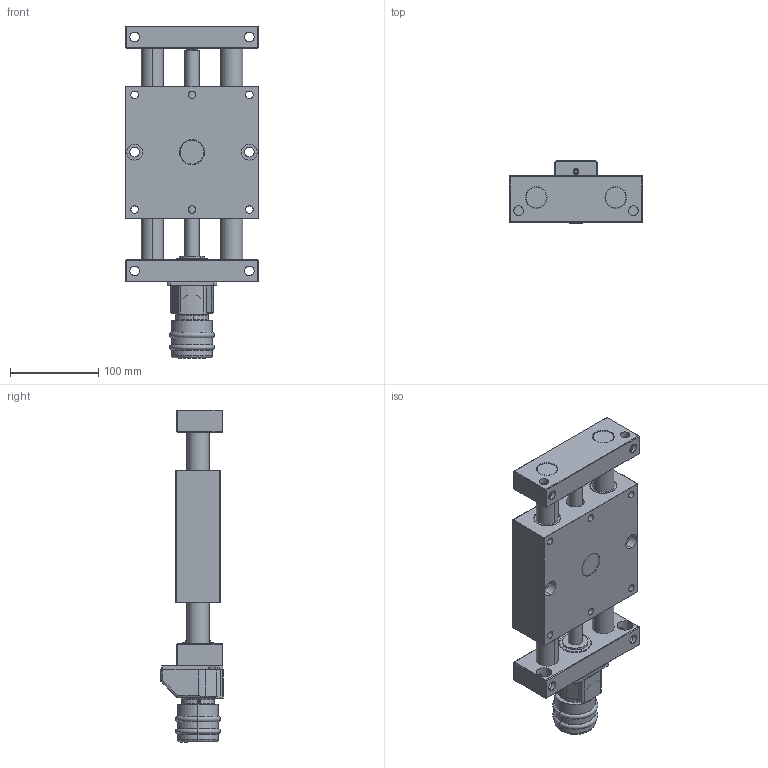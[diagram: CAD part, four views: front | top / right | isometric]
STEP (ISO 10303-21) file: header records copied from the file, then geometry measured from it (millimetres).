
FILE_DESCRIPTION (( 'STEP AP203' ), '1' );
FILE_NAME ('PT8625-PAE-Positioniertisch.STEP', '2016-01-15T17:24:19', ( '' ), ( '' ), 'SwSTEP 2.0', 'SolidWorks 2014', '' );
FILE_SCHEMA (( 'CONFIG_CONTROL_DESIGN' ));
Length unit declared in the file: millimetre
Products named in the file (4): PAE25-PTHT-000-Elektronischer-Positionsanzeiger-Komplett_n_Standard; PT8625-PAE-Positioniertisch; PT8625-000-01-Festteil-PA(E)_n_Standard; PT25-000-02-Schlitten-komplett_n_Standard
Assembly tree (3 placements, depth 2):
  PT8625-PAE-Positioniertisch
    PT8625-000-01-Festteil-PA(E)_n_Standard
    PT25-000-02-Schlitten-komplett_n_Standard
    PAE25-PTHT-000-Elektronischer-Positionsanzeiger-Komplett_n_Standard
Bounding box: 150 x 71.23 x 376.26 mm (x, y, z)
Volume: 1714380.4 mm3; surface area: 265517.9 mm2
Topology: 3 solids, 8 shells, 1083 faces, 2693 edges, 1709 vertices
Faces by surface type: plane 626, cylinder 291, cone 82, torus 62, sphere 16, bspline 6
Entity records: 34131 total; most frequent: CARTESIAN_POINT 7422, DIRECTION 5562, ORIENTED_EDGE 5350, EDGE_CURVE 2675, AXIS2_PLACEMENT_3D 1888, LINE 1786, VECTOR 1786, VERTEX_POINT 1709
